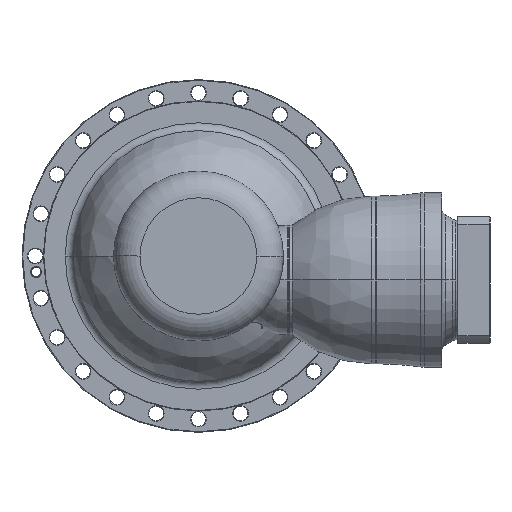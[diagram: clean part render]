
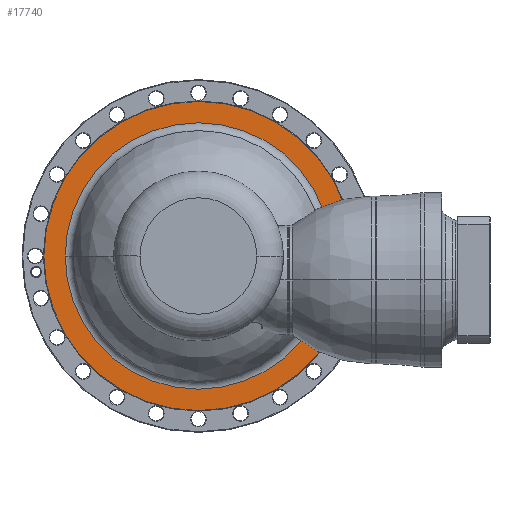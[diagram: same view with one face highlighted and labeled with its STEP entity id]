
A CAD part, left-side view. The second image highlights one B-rep face of the part: STEP entity #17740.
In plain terms, the highlighted planar face has unit normal (-1, 0, 0) as drawn and (1, 0, 0) by its records, which use the part's own axes.
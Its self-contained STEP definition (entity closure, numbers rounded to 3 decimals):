
#17211=CARTESIAN_POINT('',(-137.5,0.,0.));
#17212=DIRECTION('',(-1.,0.,0.));
#17213=DIRECTION('',(0.,-1.,0.));
#17214=AXIS2_PLACEMENT_3D('',#17211,#17212,#17213);
#17216=CARTESIAN_POINT('',(-137.5,0.,0.));
#17217=DIRECTION('',(-1.,0.,0.));
#17218=DIRECTION('',(0.,1.,0.));
#17219=AXIS2_PLACEMENT_3D('',#17216,#17217,#17218);
#17221=CARTESIAN_POINT('',(-137.5,0.,0.));
#17222=DIRECTION('',(1.,0.,0.));
#17223=DIRECTION('',(0.,-1.,0.));
#17224=AXIS2_PLACEMENT_3D('',#17221,#17222,#17223);
#17226=CARTESIAN_POINT('',(-137.5,0.,0.));
#17227=DIRECTION('',(1.,0.,0.));
#17228=DIRECTION('',(0.,1.,0.));
#17229=AXIS2_PLACEMENT_3D('',#17226,#17227,#17228);
#17458=CARTESIAN_POINT('',(-137.5,-232.2,0.));
#17459=CARTESIAN_POINT('',(-137.5,232.2,0.));
#17460=VERTEX_POINT('',#17458);
#17461=VERTEX_POINT('',#17459);
#17506=CARTESIAN_POINT('',(-137.5,-200.055,0.));
#17507=CARTESIAN_POINT('',(-137.5,200.055,0.));
#17508=VERTEX_POINT('',#17506);
#17509=VERTEX_POINT('',#17507);
#17724=CARTESIAN_POINT('',(-137.5,0.,0.));
#17725=DIRECTION('',(1.,0.,0.));
#17726=DIRECTION('',(0.,-1.,0.));
#17727=AXIS2_PLACEMENT_3D('',#17724,#17725,#17726);
#17728=PLANE('',#17727);
#17730=ORIENTED_EDGE('',*,*,#17729,.T.);
#17732=ORIENTED_EDGE('',*,*,#17731,.T.);
#17733=EDGE_LOOP('',(#17730,#17732));
#17734=FACE_OUTER_BOUND('',#17733,.F.);
#17735=ORIENTED_EDGE('',*,*,#17714,.T.);
#17737=ORIENTED_EDGE('',*,*,#17736,.T.);
#17738=EDGE_LOOP('',(#17735,#17737));
#17739=FACE_BOUND('',#17738,.F.);
#17740=ADVANCED_FACE('',(#17734,#17739),#17728,.T.);
#17215=CIRCLE('',#17214,232.2);
#17220=CIRCLE('',#17219,232.2);
#17225=CIRCLE('',#17224,200.055);
#17230=CIRCLE('',#17229,200.055);
#17714=EDGE_CURVE('',#17508,#17509,#17225,.T.);
#17729=EDGE_CURVE('',#17460,#17461,#17215,.T.);
#17731=EDGE_CURVE('',#17461,#17460,#17220,.T.);
#17736=EDGE_CURVE('',#17509,#17508,#17230,.T.);
